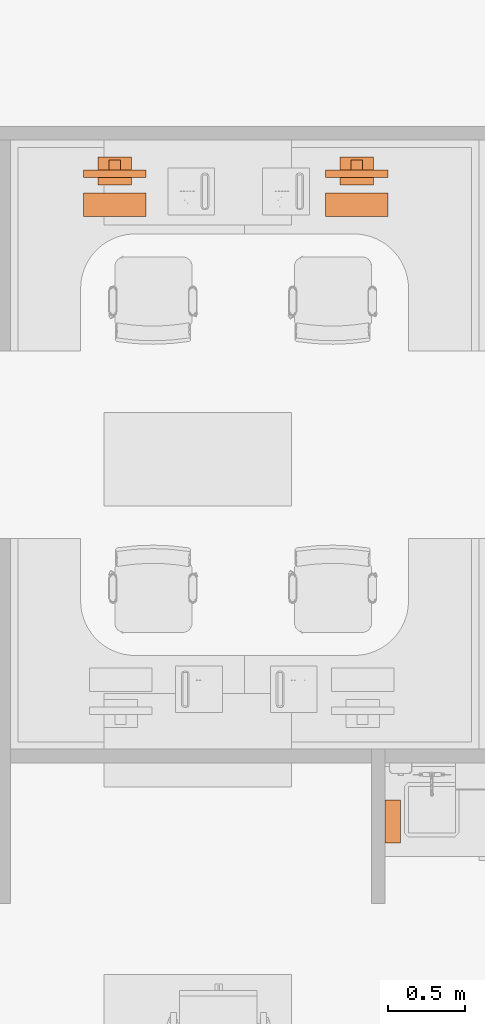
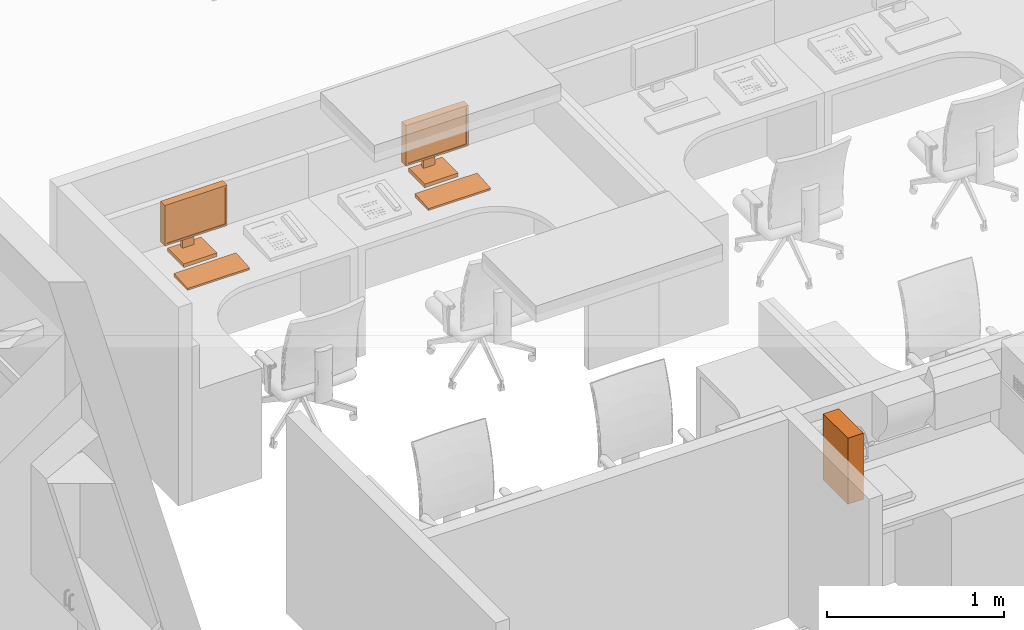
# One storey, part 127 of 142: 3 proxies.
"""IFC2X3 building model written with IfcOpenShell, lengths in feet."""

from ifc_helpers import new_model, entity, si_unit, converted_unit, derived_unit, direction, frame, frame_2d, origin, place, context, subcontext, project, spatial, rectangle, extrude, faceted_brep, source, transform, mapped, type_object, type_shapes, element, save


model = new_model("IFC2X3")

# Units and contexts
model_context = context("Model", 3, precision=0.0001, world=origin(), true_north=direction((6.12303176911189e-17, 1.0)))
body_context = subcontext(model_context, "Body", "Model", "MODEL_VIEW")
ifc_project = project(units=[converted_unit("LENGTHUNIT", "FOOT", entity("IfcRatioMeasure", 0.3048), si_unit("LENGTHUNIT", "METRE"), dimensions=[1, 0, 0, 0, 0, 0, 0]), converted_unit("AREAUNIT", "SQUARE FOOT", entity("IfcRatioMeasure", 0.09290304), si_unit("AREAUNIT", "SQUARE_METRE"), dimensions=[2, 0, 0, 0, 0, 0, 0]), converted_unit("VOLUMEUNIT", "CUBIC FOOT", entity("IfcRatioMeasure", 0.028316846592), si_unit("VOLUMEUNIT", "CUBIC_METRE"), dimensions=[3, 0, 0, 0, 0, 0, 0]), converted_unit("PLANEANGLEUNIT", "DEGREE", entity("IfcRatioMeasure", 0.0174532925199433), si_unit("PLANEANGLEUNIT", "RADIAN"), dimensions=[0, 0, 0, 0, 0, 0, 0]), si_unit("MASSUNIT", "GRAM", prefix="KILO"), derived_unit("MASSDENSITYUNIT", [(si_unit("MASSUNIT", "GRAM", prefix="KILO"), 1), (si_unit("LENGTHUNIT", "METRE"), -3)]), si_unit("TIMEUNIT", "SECOND"), si_unit("FREQUENCYUNIT", "HERTZ"), si_unit("THERMODYNAMICTEMPERATUREUNIT", "DEGREE_CELSIUS"), derived_unit("THERMALTRANSMITTANCEUNIT", [(si_unit("MASSUNIT", "GRAM", prefix="KILO"), 1), (si_unit("THERMODYNAMICTEMPERATUREUNIT", "KELVIN"), -1), (si_unit("TIMEUNIT", "SECOND"), -3)]), derived_unit("VOLUMETRICFLOWRATEUNIT", [(si_unit("LENGTHUNIT", "METRE"), 3), (si_unit("TIMEUNIT", "SECOND"), -1)]), si_unit("ELECTRICCURRENTUNIT", "AMPERE"), si_unit("ELECTRICVOLTAGEUNIT", "VOLT"), si_unit("POWERUNIT", "WATT"), si_unit("FORCEUNIT", "NEWTON"), si_unit("ILLUMINANCEUNIT", "LUX"), si_unit("LUMINOUSFLUXUNIT", "LUMEN"), si_unit("LUMINOUSINTENSITYUNIT", "CANDELA"), derived_unit("USERDEFINED", [(si_unit("MASSUNIT", "GRAM", prefix="KILO"), -1), (si_unit("LENGTHUNIT", "METRE"), -2), (si_unit("TIMEUNIT", "SECOND"), 3), (si_unit("LUMINOUSFLUXUNIT", "LUMEN"), 1)]), derived_unit("LINEARVELOCITYUNIT", [(si_unit("LENGTHUNIT", "METRE"), 1), (si_unit("TIMEUNIT", "SECOND"), -1)]), si_unit("PRESSUREUNIT", "PASCAL"), derived_unit("USERDEFINED", [(si_unit("LENGTHUNIT", "METRE"), -2), (si_unit("MASSUNIT", "GRAM", prefix="KILO"), 1), (si_unit("TIMEUNIT", "SECOND"), -2)])], contexts=[model_context])

# Site, building, storey, space
site_placement = place(None, origin())
site = spatial("IfcSite", under=ifc_project, at=site_placement, Name="Default", CompositionType="ELEMENT")
building_placement = place(site_placement, origin())
building = spatial("IfcBuilding", under=site, at=building_placement, Name="OUTPATIENT / PACT CLINIC (Ch. 265)", CompositionType="ELEMENT")
storey_placement = place(building_placement, origin())
storey = spatial("IfcBuildingStorey", under=building, at=storey_placement, Name="LEVEL 1", CompositionType="ELEMENT", Elevation=0.0)
space_placement = place(storey_placement, origin())
space = spatial("IfcSpace", under=storey, at=space_placement, Name="WRTM1", CompositionType="ELEMENT", InteriorOrExteriorSpace="INTERNAL")

# Proxies
building_element_proxy_type_1 = type_object("IfcBuildingElementProxyType", Name="M1801 - Computer with Flat Panel Monitor", PredefinedType="NOTDEFINED")
shared_shape_1 = source(origin(), body_context, "Body", "Brep", [
    faceted_brep([(0.666666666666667, 0.5625, 0.0), (0.666666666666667, 0.5625, 0.0416666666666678), (0.666666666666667, 0.0624999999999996, 0.0833333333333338), (0.666666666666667, 0.0624999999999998, 0.0), (-0.666666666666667, 0.5625, 0.0), (-0.666666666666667, 0.0624999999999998, 0.0), (-0.666666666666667, 0.0624999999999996, 0.0833333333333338), (-0.666666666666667, 0.5625, 0.0416666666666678)], [[[0, 1, 2, 3]], [[4, 5, 6, 7]], [[3, 5, 4, 0]], [[2, 6, 5, 3]], [[1, 7, 6, 2]], [[0, 4, 7, 1]]]),
    faceted_brep([(0.666666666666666, -0.437223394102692, 1.41666666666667), (0.666666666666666, -0.271109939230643, 1.41666666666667), (-0.666666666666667, -0.271109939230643, 1.41666666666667), (-0.666666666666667, -0.437223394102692, 1.41666666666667), (0.666666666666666, -0.437223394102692, 0.500000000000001), (-0.666666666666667, -0.437223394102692, 0.500000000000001), (-0.666666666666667, -0.271109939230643, 0.500000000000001), (0.666666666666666, -0.271109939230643, 0.500000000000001), (-0.625, -0.271109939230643, 1.375), (-0.625, -0.271109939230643, 0.541666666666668), (0.625, -0.271109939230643, 0.541666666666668), (0.625, -0.271109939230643, 1.375), (0.625, -0.286812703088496, 1.375), (-0.625, -0.286812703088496, 1.375), (0.625, -0.286812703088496, 0.541666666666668), (-0.625, -0.286812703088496, 0.541666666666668)], [[[0, 1, 2, 3]], [[4, 5, 6, 7]], [[3, 5, 4, 0]], [[2, 6, 5, 3]], [[8, 9, 10, 11], [1, 7, 6, 2]], [[0, 4, 7, 1]], [[12, 13, 8, 11]], [[14, 10, 9, 15]], [[12, 14, 15, 13]], [[13, 15, 9, 8]], [[11, 10, 14, 12]]], outer=[[True], [True], [True], [True], [False, True], [True], [True], [True], [True], [True], [True]]),
    faceted_brep([(0.358011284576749, -0.111770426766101, 0.0833333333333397), (0.358011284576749, -0.708333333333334, 0.0833333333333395), (0.358011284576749, -0.708333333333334, 0.0), (0.358011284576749, -0.111770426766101, 0.0), (-0.358011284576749, -0.708333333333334, 0.0833333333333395), (-0.358011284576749, -0.111770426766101, 0.0833333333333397), (-0.358011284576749, -0.111770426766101, 0.0), (-0.358011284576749, -0.708333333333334, 0.0), (0.12128795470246, -0.645556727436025, 0.104166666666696), (-0.12128795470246, -0.645556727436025, 0.104166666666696), (-0.12128795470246, -0.645556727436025, 0.0833333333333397), (0.12128795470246, -0.645556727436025, 0.0833333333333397), (0.12128795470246, -0.645556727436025, 0.958333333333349), (-0.12128795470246, -0.645556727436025, 0.958333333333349), (0.12128795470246, -0.437223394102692, 0.958333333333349), (-0.12128795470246, -0.437223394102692, 0.958333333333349), (0.12128795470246, -0.437223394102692, 0.791666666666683), (-0.12128795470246, -0.437223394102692, 0.791666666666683), (0.12128795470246, -0.562223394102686, 0.791666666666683), (-0.12128795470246, -0.562223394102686, 0.791666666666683), (0.12128795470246, -0.562223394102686, 0.0833333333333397), (-0.12128795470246, -0.562223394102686, 0.0833333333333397)], [[[0, 1, 2, 3]], [[4, 5, 6, 7]], [[8, 9, 10, 11]], [[12, 13, 9, 8]], [[14, 15, 13, 12]], [[16, 17, 15, 14]], [[18, 19, 17, 16]], [[20, 21, 19, 18]], [[11, 10, 21, 20], [0, 5, 4, 1]], [[3, 6, 5, 0]], [[2, 7, 6, 3]], [[1, 4, 7, 2]], [[20, 18, 16, 14, 12, 8, 11]], [[10, 9, 13, 15, 17, 19, 21]]], outer=[[True], [True], [True], [True], [True], [True], [True], [True], [False, True], [True], [True], [True], [True], [True]]),
])
type_shapes(building_element_proxy_type_1, [shared_shape_1])
for number, where, z_axis, x_axis in (
    (1, (411.586447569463, -877.489683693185, 2.49999999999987), (0.0, 0.0, 1.0), (-1.0, 0.0, 0.0)),
    (2, (416.753530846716, -877.489683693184, 2.49999999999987), (0.0, 0.0, 1.0), (-1.0, 0.0, 0.0)),
):
    element("IfcBuildingElementProxy", number, at=place(space_placement, frame(where, z_axis=z_axis, x_axis=x_axis)), inside=space, type_object=building_element_proxy_type_1, Name="M1801 - Computer with Flat Panel Monitor:M1801 - Computer with Flat Panel Monitor", ObjectType="M1801 - Computer with Flat Panel Monitor", context=body_context, shape_type="MappedRepresentation", body=[
        mapped(shared_shape_1, transform((0.0, 0.0, 0.0), scale=1.0)),
    ])
building_element_proxy_type_2 = type_object("IfcBuildingElementProxyType", Name="A5107 - Dispenser, Glove, Surgical-Examination, Wall Mntd 10\"x 4\"", PredefinedType="NOTDEFINED")
shared_shape_2 = source(origin(), body_context, "Body", "SweptSolid", [
    extrude(rectangle(XDim=0.916666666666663, YDim=0.333333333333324, at=frame_2d((0.0, 2.77555756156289e-17), x_axis=(1.0, 0.0))), frame((0.0, -0.166666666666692, 0.0), z_axis=(0.0, 0.0, 1.0), x_axis=(-1.0, 0.0, 0.0)), (0.0, 0.0, 1.0), 1.5),
])
type_shapes(building_element_proxy_type_2, [shared_shape_2])
proxy_placement = place(storey_placement, frame((417.359283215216, -890.962158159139, 3.5), z_axis=(0.0, 0.0, 1.0), x_axis=(0.0, 1.0, 0.0)))
element("IfcBuildingElementProxy", 3, at=proxy_placement, inside=storey, type_object=building_element_proxy_type_2, Name="A5107 - Dispenser, Glove, Surgical-Examination, Wall Mntd1:A5107 - Dispenser, Glove, Surgical-Examination, Wall Mntd 10\"x 4\"", ObjectType="A5107 - Dispenser, Glove, Surgical-Examination, Wall Mntd 10\"x 4\"", context=body_context, shape_type="MappedRepresentation", body=[
    mapped(shared_shape_2, transform((0.0, 0.0, 0.0), scale=1.0)),
])

save(model, "model.ifc")
